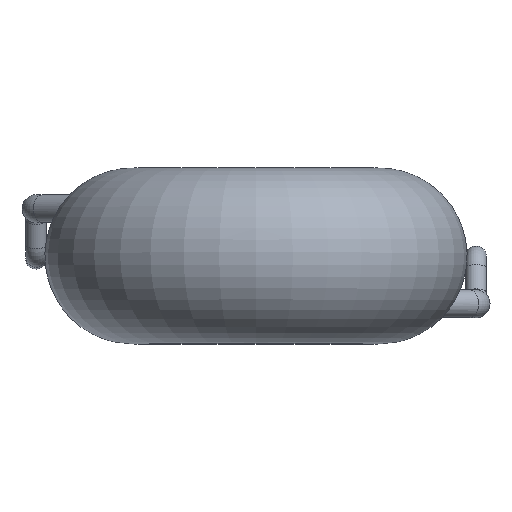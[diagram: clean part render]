
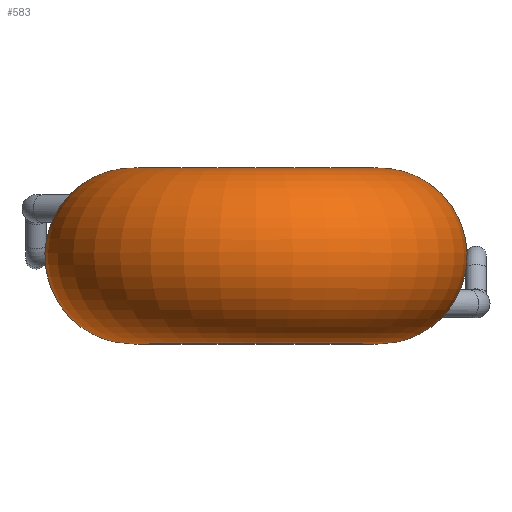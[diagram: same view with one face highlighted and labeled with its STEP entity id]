
A CAD part, top view. The second image highlights one B-rep face of the part: STEP entity #583.
In plain terms, the highlighted toroidal (fillet/blend) face has major radius 3.5 mm and minor radius 2.5 mm.
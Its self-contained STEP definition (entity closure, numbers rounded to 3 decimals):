
#451=CARTESIAN_POINT('',(4.643,0.467,-3.775));
#452=VERTEX_POINT('',#451);
#484=CARTESIAN_POINT('',(4.643,0.467,-3.774));
#485=CARTESIAN_POINT('',(4.734,0.46,-3.661));
#486=CARTESIAN_POINT('',(4.901,0.383,-3.426));
#487=CARTESIAN_POINT('',(5.037,0.115,-3.124));
#488=CARTESIAN_POINT('',(5.025,-0.232,-2.916));
#489=CARTESIAN_POINT('',(4.872,-0.583,-2.814));
#490=CARTESIAN_POINT('',(4.611,-0.882,-2.821));
#491=CARTESIAN_POINT('',(4.273,-1.102,-2.944));
#492=CARTESIAN_POINT('',(3.929,-1.176,-3.252));
#493=CARTESIAN_POINT('',(3.78,-1.077,-3.589));
#494=CARTESIAN_POINT('',(3.727,-0.944,-3.826));
#495=CARTESIAN_POINT('',(3.708,-0.779,-4.041));
#496=CARTESIAN_POINT('',(3.741,-0.525,-4.251));
#497=CARTESIAN_POINT('',(3.864,-0.169,-4.374));
#498=CARTESIAN_POINT('',(4.074,0.177,-4.326));
#499=CARTESIAN_POINT('',(4.354,0.424,-4.107));
#500=CARTESIAN_POINT('',(4.552,0.473,-3.888));
#501=CARTESIAN_POINT('',(4.643,0.467,-3.774));
#502=B_SPLINE_CURVE_WITH_KNOTS('',3,(#484,#485,#486,#487,#488,#489,#490,#491,#492,#493,#494,#495,#496,#497,#498,#499,#500,#501),.UNSPECIFIED.,.T.,.U.,(4,1,1,1,1,1,1,1,1,1,1,1,1,1,1,4),(0.0,0.02,0.04,0.059,0.079,0.099,0.119,0.139,0.158,0.168,0.178,0.198,0.218,0.238,0.257,0.277),.UNSPECIFIED.);
#503=EDGE_CURVE('',#452,#452,#502,.T.);
#528=CARTESIAN_POINT('',(0.,0.75,0.));
#529=DIRECTION('',(0.,-1.0,0.));
#530=DIRECTION('',(0.0,0.0,1.0));
#531=AXIS2_PLACEMENT_3D('',#528,#529,#530);
#532=TOROIDAL_SURFACE('',#531,3.5,2.5);
#533=CARTESIAN_POINT('',(0.,3.25,3.5));
#534=VERTEX_POINT('',#533);
#535=CARTESIAN_POINT('',(0.,3.25,0.));
#536=DIRECTION('',(0.0,-1.0,0.0));
#537=DIRECTION('',(0.0,0.0,-1.0));
#538=AXIS2_PLACEMENT_3D('',#535,#536,#537);
#539=CIRCLE('',#538,3.5);
#540=EDGE_CURVE('',#534,#534,#539,.T.);
#541=ORIENTED_EDGE('',*,*,#540,.T.);
#542=EDGE_LOOP('',(#541));
#543=FACE_OUTER_BOUND('',#542,.T.);
#544=CARTESIAN_POINT('',(0.,-1.75,3.5));
#545=VERTEX_POINT('',#544);
#546=CARTESIAN_POINT('',(0.,-1.75,0.));
#547=DIRECTION('',(0.0,1.0,0.0));
#548=DIRECTION('',(0.0,0.0,-1.0));
#549=AXIS2_PLACEMENT_3D('',#546,#547,#548);
#550=CIRCLE('',#549,3.5);
#551=EDGE_CURVE('',#545,#545,#550,.T.);
#552=ORIENTED_EDGE('',*,*,#551,.T.);
#553=EDGE_LOOP('',(#552));
#554=FACE_BOUND('',#553,.T.);
#555=CARTESIAN_POINT('',(-4.643,1.033,-3.775));
#556=VERTEX_POINT('',#555);
#557=CARTESIAN_POINT('',(-4.643,1.033,-3.774));
#558=CARTESIAN_POINT('',(-4.734,1.04,-3.661));
#559=CARTESIAN_POINT('',(-4.901,1.117,-3.426));
#560=CARTESIAN_POINT('',(-5.037,1.385,-3.124));
#561=CARTESIAN_POINT('',(-5.025,1.732,-2.916));
#562=CARTESIAN_POINT('',(-4.872,2.083,-2.814));
#563=CARTESIAN_POINT('',(-4.611,2.382,-2.821));
#564=CARTESIAN_POINT('',(-4.273,2.602,-2.944));
#565=CARTESIAN_POINT('',(-3.929,2.676,-3.252));
#566=CARTESIAN_POINT('',(-3.78,2.577,-3.589));
#567=CARTESIAN_POINT('',(-3.727,2.444,-3.826));
#568=CARTESIAN_POINT('',(-3.708,2.279,-4.041));
#569=CARTESIAN_POINT('',(-3.741,2.025,-4.251));
#570=CARTESIAN_POINT('',(-3.864,1.669,-4.374));
#571=CARTESIAN_POINT('',(-4.074,1.323,-4.326));
#572=CARTESIAN_POINT('',(-4.354,1.076,-4.107));
#573=CARTESIAN_POINT('',(-4.552,1.027,-3.888));
#574=CARTESIAN_POINT('',(-4.643,1.033,-3.774));
#575=B_SPLINE_CURVE_WITH_KNOTS('',3,(#557,#558,#559,#560,#561,#562,#563,#564,#565,#566,#567,#568,#569,#570,#571,#572,#573,#574),.UNSPECIFIED.,.T.,.U.,(4,1,1,1,1,1,1,1,1,1,1,1,1,1,1,4),(0.0,0.02,0.04,0.059,0.079,0.099,0.119,0.139,0.158,0.168,0.178,0.198,0.218,0.238,0.257,0.277),.UNSPECIFIED.);
#576=EDGE_CURVE('',#556,#556,#575,.T.);
#577=ORIENTED_EDGE('',*,*,#576,.F.);
#578=EDGE_LOOP('',(#577));
#579=FACE_BOUND('',#578,.T.);
#580=ORIENTED_EDGE('',*,*,#503,.F.);
#581=EDGE_LOOP('',(#580));
#582=FACE_BOUND('',#581,.T.);
#583=ADVANCED_FACE('',(#543,#554,#579,#582),#532,.T.);
